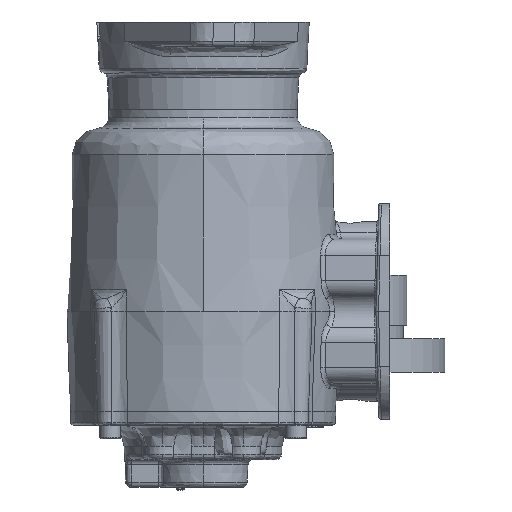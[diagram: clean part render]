
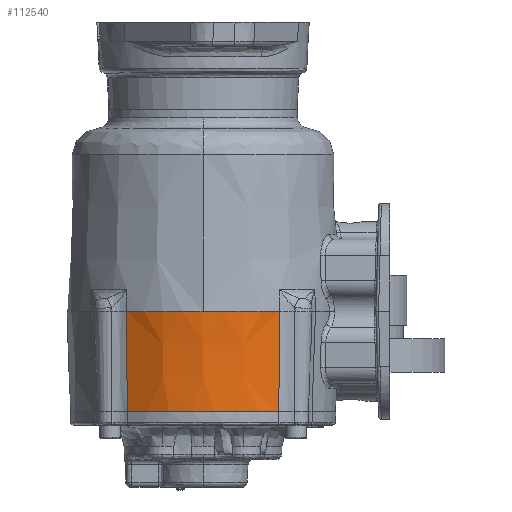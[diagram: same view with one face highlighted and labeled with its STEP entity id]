
A CAD part, left-side view. The second image highlights one B-rep face of the part: STEP entity #112540.
In plain terms, the highlighted conical face has half-angle 2 degrees and reference radius 78.232 mm.
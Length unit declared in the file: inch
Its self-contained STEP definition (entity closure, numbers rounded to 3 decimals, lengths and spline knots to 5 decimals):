
#906 = VERTEX_POINT ( 'NONE', #91445 ) ;
#4049 = CARTESIAN_POINT ( 'NONE',  ( -0.32707, 0.03727, -0.86956 ) ) ;
#4050 = DIRECTION ( 'NONE',  ( 0., 0., 1. ) ) ;
#4051 = DIRECTION ( 'NONE',  ( 1., 0., 0. ) ) ;
#29533 = VERTEX_POINT ( 'NONE', #80647 ) ;
#31062 = CONICAL_SURFACE ( 'NONE', #31065, 3.08, 0.035 ) ;
#31065 = AXIS2_PLACEMENT_3D ( 'NONE', #67176, #67185, #67127 ) ;
#33057 = CIRCLE ( 'NONE', #33089, 3.08 ) ;
#33081 = CIRCLE ( 'NONE', #33101, 3.00092 ) ;
#33089 = AXIS2_PLACEMENT_3D ( 'NONE', #89826, #89827, #89828 ) ;
#33101 = AXIS2_PLACEMENT_3D ( 'NONE', #89829, #89830, #89831 ) ;
#41786 = B_SPLINE_CURVE_WITH_KNOTS ( 'NONE', 3,
 ( #89926, #89931, #89942, #89943 ),
 .UNSPECIFIED., .F., .F.,
 ( 4, 4 ),
 ( 0., 1. ),
 .UNSPECIFIED. ) ;
#41800 = B_SPLINE_CURVE_WITH_KNOTS ( 'NONE', 3,
 ( #89893, #89894, #89908, #89909 ),
 .UNSPECIFIED., .F., .F.,
 ( 4, 4 ),
 ( 0., 1. ),
 .UNSPECIFIED. ) ;
#49447 = VERTEX_POINT ( 'NONE', #141788 ) ;
#49449 = VERTEX_POINT ( 'NONE', #141803 ) ;
#67127 = DIRECTION ( 'NONE',  ( 1., 0., 0. ) ) ;
#67176 = CARTESIAN_POINT ( 'NONE',  ( -0.32707, 0.03727, -0.86956 ) ) ;
#67183 = FACE_OUTER_BOUND ( 'NONE', #121788, .T. ) ;
#67185 = DIRECTION ( 'NONE',  ( 0., 0., 1. ) ) ;
#71279 = CARTESIAN_POINT ( 'NONE',  ( -2.79144, -1.67515, -3.13406 ) ) ;
#79687 = CIRCLE ( 'NONE', #79691, 3.08 ) ;
#79691 = AXIS2_PLACEMENT_3D ( 'NONE', #4049, #4050, #4051 ) ;
#80647 = CARTESIAN_POINT ( 'NONE',  ( -2.79144, 1.7497, -3.13406 ) ) ;
#89826 = CARTESIAN_POINT ( 'NONE',  ( -0.32707, 0.03727, -0.86956 ) ) ;
#89827 = DIRECTION ( 'NONE',  ( 0., 0., 1. ) ) ;
#89828 = DIRECTION ( 'NONE',  ( 1., 0., 0. ) ) ;
#89829 = CARTESIAN_POINT ( 'NONE',  ( -0.32707, 0.03727, -3.13406 ) ) ;
#89830 = DIRECTION ( 'NONE',  ( 0., 0., -1. ) ) ;
#89831 = DIRECTION ( 'NONE',  ( 1., 0., 0. ) ) ;
#89893 = CARTESIAN_POINT ( 'NONE',  ( -2.87096, 1.77365, -0.86956 ) ) ;
#89894 = CARTESIAN_POINT ( 'NONE',  ( -2.84382, 1.76533, -1.64577 ) ) ;
#89908 = CARTESIAN_POINT ( 'NONE',  ( -2.81732, 1.75734, -2.4006 ) ) ;
#89909 = CARTESIAN_POINT ( 'NONE',  ( -2.79144, 1.7497, -3.13406 ) ) ;
#89926 = CARTESIAN_POINT ( 'NONE',  ( -2.79144, -1.67515, -3.13406 ) ) ;
#89931 = CARTESIAN_POINT ( 'NONE',  ( -2.81732, -1.6828, -2.4006 ) ) ;
#89942 = CARTESIAN_POINT ( 'NONE',  ( -2.84382, -1.69078, -1.64577 ) ) ;
#89943 = CARTESIAN_POINT ( 'NONE',  ( -2.87096, -1.6991, -0.86956 ) ) ;
#91445 = CARTESIAN_POINT ( 'NONE',  ( -2.87096, -1.6991, -0.86956 ) ) ;
#112540 = ADVANCED_FACE ( 'NONE', ( #67183 ), #31062, .T. ) ;
#121788 = EDGE_LOOP ( 'NONE', ( #127093, #127094, #127095, #127096, #127097 ) ) ;
#127093 = ORIENTED_EDGE ( 'NONE', *, *, #144592, .F. ) ;
#127094 = ORIENTED_EDGE ( 'NONE', *, *, #128511, .T. ) ;
#127095 = ORIENTED_EDGE ( 'NONE', *, *, #128495, .F. ) ;
#127096 = ORIENTED_EDGE ( 'NONE', *, *, #128516, .T. ) ;
#127097 = ORIENTED_EDGE ( 'NONE', *, *, #128494, .F. ) ;
#128494 = EDGE_CURVE ( 'NONE', #49447, #906, #33057, .T. ) ;
#128495 = EDGE_CURVE ( 'NONE', #146563, #29533, #33081, .T. ) ;
#128511 = EDGE_CURVE ( 'NONE', #49449, #29533, #41800, .T. ) ;
#128516 = EDGE_CURVE ( 'NONE', #146563, #906, #41786, .T. ) ;
#141788 = CARTESIAN_POINT ( 'NONE',  ( -3.40707, 0.03727, -0.86956 ) ) ;
#141803 = CARTESIAN_POINT ( 'NONE',  ( -2.87096, 1.77365, -0.86956 ) ) ;
#144592 = EDGE_CURVE ( 'NONE', #49449, #49447, #79687, .T. ) ;
#146563 = VERTEX_POINT ( 'NONE', #71279 ) ;
